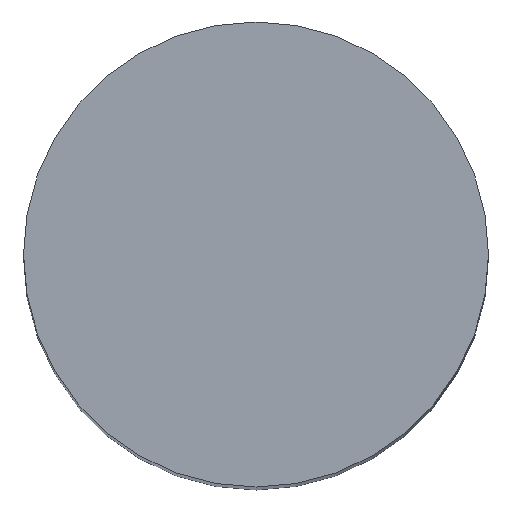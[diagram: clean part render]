
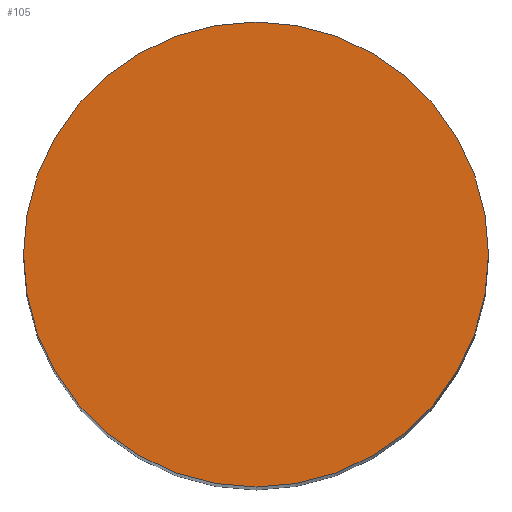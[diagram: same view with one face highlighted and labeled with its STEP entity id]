
A CAD part, top view. The second image highlights one B-rep face of the part: STEP entity #105.
In plain terms, the highlighted planar face has unit normal (0, 0, 1).
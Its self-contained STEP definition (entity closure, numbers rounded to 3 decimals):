
#21 = EDGE_CURVE('',#22,#22,#24,.T.);
#22 = VERTEX_POINT('',#23);
#23 = CARTESIAN_POINT('',(-163.,-89.913,45.));
#24 = SURFACE_CURVE('',#25,(#30,#42),.PCURVE_S1.);
#25 = CIRCLE('',#26,3.);
#26 = AXIS2_PLACEMENT_3D('',#27,#28,#29);
#27 = CARTESIAN_POINT('',(-166.,-89.913,45.));
#28 = DIRECTION('',(0.,0.,1.));
#29 = DIRECTION('',(1.,0.,-0.));
#30 = PCURVE('',#31,#36);
#31 = CYLINDRICAL_SURFACE('',#32,3.);
#32 = AXIS2_PLACEMENT_3D('',#33,#34,#35);
#33 = CARTESIAN_POINT('',(-166.,-89.913,23.));
#34 = DIRECTION('',(0.,0.,1.));
#35 = DIRECTION('',(1.,0.,-0.));
#36 = DEFINITIONAL_REPRESENTATION('',(#37),#41);
#37 = LINE('',#38,#39);
#38 = CARTESIAN_POINT('',(0.,22.));
#39 = VECTOR('',#40,1.);
#40 = DIRECTION('',(1.,0.));
#41 = ( GEOMETRIC_REPRESENTATION_CONTEXT(2) 
PARAMETRIC_REPRESENTATION_CONTEXT() REPRESENTATION_CONTEXT('2D SPACE',''
  ) );
#42 = PCURVE('',#43,#48);
#43 = PLANE('',#44);
#44 = AXIS2_PLACEMENT_3D('',#45,#46,#47);
#45 = CARTESIAN_POINT('',(-166.,-89.913,45.));
#46 = DIRECTION('',(0.,0.,1.));
#47 = DIRECTION('',(1.,0.,-0.));
#48 = DEFINITIONAL_REPRESENTATION('',(#49),#53);
#49 = CIRCLE('',#50,3.);
#50 = AXIS2_PLACEMENT_2D('',#51,#52);
#51 = CARTESIAN_POINT('',(0.,0.));
#52 = DIRECTION('',(1.,0.));
#53 = ( GEOMETRIC_REPRESENTATION_CONTEXT(2) 
PARAMETRIC_REPRESENTATION_CONTEXT() REPRESENTATION_CONTEXT('2D SPACE',''
  ) );
#105 = ADVANCED_FACE('',(#106),#43,.T.);
#106 = FACE_BOUND('',#107,.T.);
#107 = EDGE_LOOP('',(#108));
#108 = ORIENTED_EDGE('',*,*,#21,.T.);
